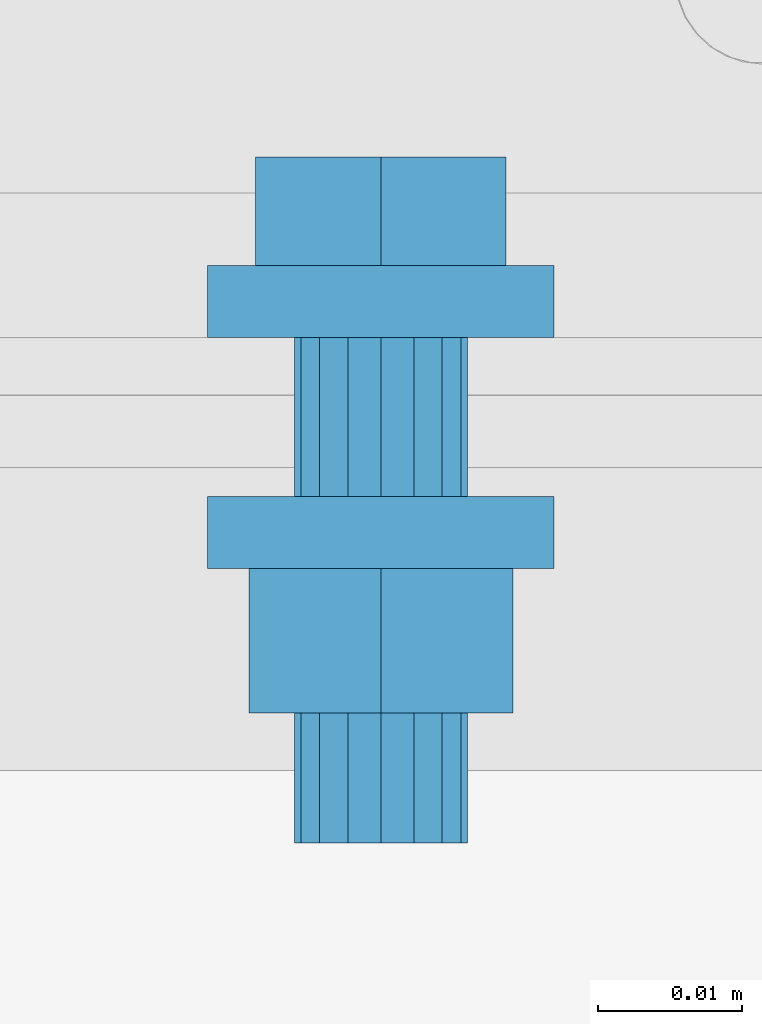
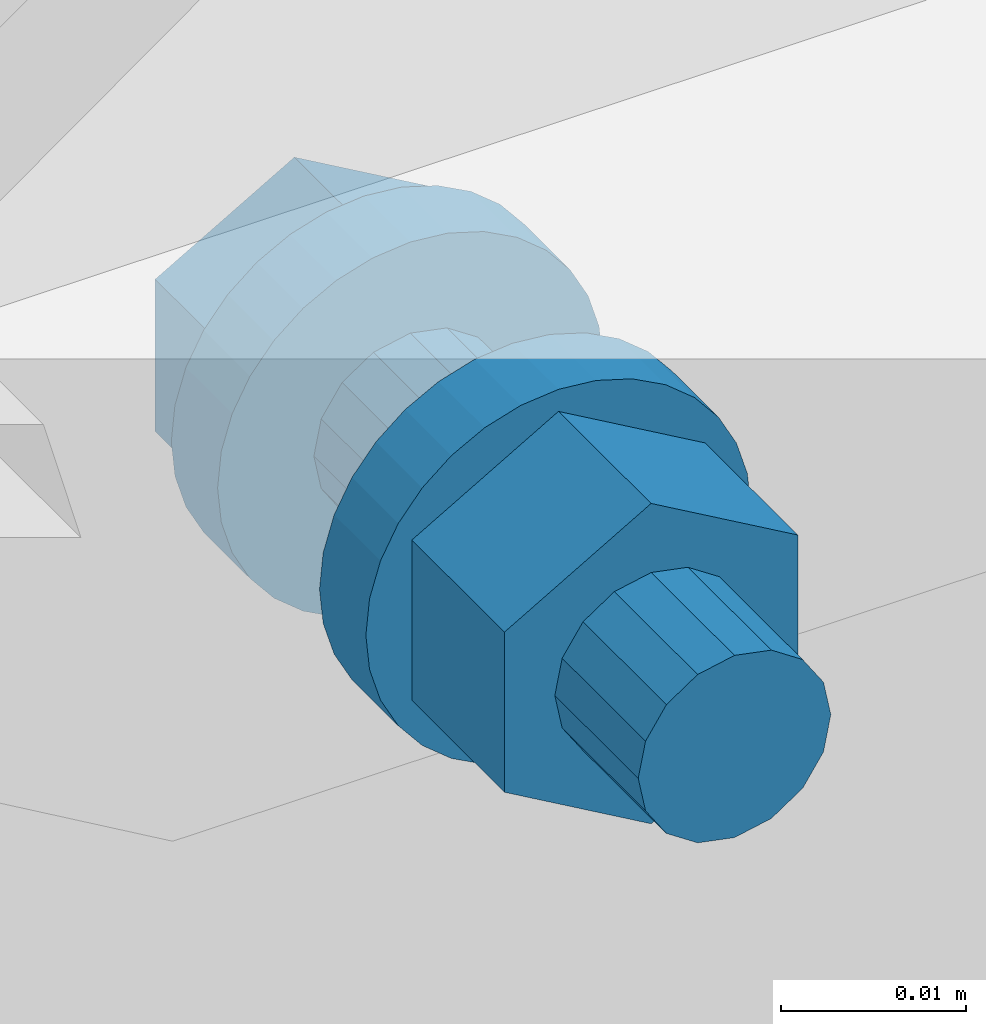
# One storey, part 47 of 116: 1 mechanical fastener.
"""IFC2X3 building model written with IfcOpenShell, lengths in millimetres."""

from ifc_helpers import new_model, entity, si_unit, converted_unit, origin_with_axes, place, context, project, spatial, faceted_brep, element, save


model = new_model("IFC2X3")

# Units and contexts
model_context = context("Model", 3, precision=1e-09, world=origin_with_axes())
ifc_project = project(units=[si_unit("LENGTHUNIT", "METRE", prefix="MILLI"), si_unit("AREAUNIT", "SQUARE_METRE"), si_unit("VOLUMEUNIT", "CUBIC_METRE"), converted_unit("PLANEANGLEUNIT", "DEGREE", entity("IfcPlaneAngleMeasure", 0.01745329), si_unit("PLANEANGLEUNIT", "RADIAN"), dimensions=[0, 0, 0, 0, 0, 0, 0])], contexts=[model_context])

# Site, building, storey
site_placement = place(None, origin_with_axes())
site = spatial("IfcSite", under=ifc_project, at=site_placement, Name="Site", CompositionType="ELEMENT")
building_placement = place(site_placement, origin_with_axes())
building = spatial("IfcBuilding", under=site, at=building_placement, Name="Struktur 1", CompositionType="ELEMENT")
storey_placement = place(building_placement, origin_with_axes())
storey = spatial("IfcBuildingStorey", under=building, at=storey_placement, Name="Default Storey", CompositionType="ELEMENT", Elevation=0.0)

# Mechanical fastener
mechanical_fastener_placement = place(None, origin_with_axes())
element("IfcMechanicalFastener", 1, at=mechanical_fastener_placement, inside=storey, ObjectType="-", NominalDiameter=12.0, NominalLength=40.0, context=model_context, shape_type="Brep", body=[
    faceted_brep([(58985.049134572, 10430.358883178, -533.0), (58985.049134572, 10432.858883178, -533.0), (58985.279711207, 10432.858883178, -535.341083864), (58985.279711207, 10430.358883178, -535.341083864), (58985.962580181, 10432.858883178, -537.592201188), (58985.962580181, 10430.358883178, -537.592201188), (58987.071499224, 10432.858883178, -539.666842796), (58987.071499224, 10430.358883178, -539.666842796), (58988.563853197, 10432.858883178, -541.485281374), (58988.563853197, 10430.358883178, -541.485281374), (58990.382291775, 10432.858883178, -542.977635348), (58990.382291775, 10430.358883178, -542.977635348), (58992.456933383, 10432.858883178, -544.08655439), (58992.456933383, 10430.358883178, -544.08655439), (58994.708050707, 10432.858883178, -544.769423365), (58994.708050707, 10430.358883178, -544.769423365), (58997.049134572, 10432.858883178, -545.0), (58997.049134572, 10430.358883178, -545.0), (58999.390218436, 10432.858883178, -544.769423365), (58999.390218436, 10430.358883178, -544.769423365), (59001.64133576, 10432.858883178, -544.08655439), (59001.64133576, 10430.358883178, -544.08655439), (59003.715977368, 10432.858883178, -542.977635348), (59003.715977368, 10430.358883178, -542.977635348), (59005.534415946, 10432.858883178, -541.485281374), (59005.534415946, 10430.358883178, -541.485281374), (59007.026769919, 10432.858883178, -539.666842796), (59007.026769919, 10430.358883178, -539.666842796), (59008.135688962, 10432.858883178, -537.592201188), (59008.135688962, 10430.358883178, -537.592201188), (59008.818557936, 10432.858883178, -535.341083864), (59008.818557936, 10430.358883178, -535.341083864), (59009.049134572, 10432.858883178, -533.0), (59009.049134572, 10430.358883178, -533.0), (59008.818557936, 10432.858883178, -530.658916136), (59008.818557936, 10430.358883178, -530.658916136), (59008.135688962, 10432.858883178, -528.407798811), (59008.135688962, 10430.358883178, -528.407798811), (59007.026769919, 10432.858883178, -526.333157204), (59007.026769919, 10430.358883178, -526.333157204), (59005.534415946, 10432.858883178, -524.514718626), (59005.534415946, 10430.358883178, -524.514718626), (59003.715977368, 10432.858883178, -523.022364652), (59003.715977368, 10430.358883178, -523.022364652), (59001.64133576, 10432.858883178, -521.91344561), (59001.64133576, 10430.358883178, -521.91344561), (58999.390218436, 10432.858883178, -521.230576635), (58999.390218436, 10430.358883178, -521.230576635), (58997.049134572, 10432.858883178, -521.0), (58997.049134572, 10430.358883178, -521.0), (58994.708050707, 10432.858883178, -521.230576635), (58994.708050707, 10430.358883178, -521.230576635), (58992.456933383, 10432.858883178, -521.91344561), (58992.456933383, 10430.358883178, -521.91344561), (58990.382291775, 10432.858883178, -523.022364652), (58990.382291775, 10430.358883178, -523.022364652), (58988.563853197, 10432.858883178, -524.514718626), (58988.563853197, 10430.358883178, -524.514718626), (58987.071499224, 10432.858883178, -526.333157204), (58987.071499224, 10430.358883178, -526.333157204), (58985.962580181, 10432.858883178, -528.407798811), (58985.962580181, 10430.358883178, -528.407798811), (58985.279711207, 10432.858883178, -530.658916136), (58985.279711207, 10430.358883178, -530.658916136)], [[[0, 1, 2, 3]], [[3, 2, 4, 5]], [[5, 4, 6, 7]], [[7, 6, 8, 9]], [[9, 8, 10, 11]], [[11, 10, 12, 13]], [[13, 12, 14, 15]], [[15, 14, 16, 17]], [[17, 16, 18, 19]], [[19, 18, 20, 21]], [[21, 20, 22, 23]], [[23, 22, 24, 25]], [[25, 24, 26, 27]], [[27, 26, 28, 29]], [[29, 28, 30, 31]], [[31, 30, 32, 33]], [[33, 32, 34, 35]], [[35, 34, 36, 37]], [[37, 36, 38, 39]], [[39, 38, 40, 41]], [[41, 40, 42, 43]], [[43, 42, 44, 45]], [[45, 44, 46, 47]], [[47, 46, 48, 49]], [[49, 48, 50, 51]], [[51, 50, 52, 53]], [[53, 52, 54, 55]], [[55, 54, 56, 57]], [[57, 56, 58, 59]], [[59, 58, 60, 61]], [[61, 60, 62, 63]], [[63, 62, 1, 0]], [[2, 1, 62, 60, 58, 56, 54, 52, 50, 48, 46, 44, 42, 40, 38, 36, 34, 32, 30, 28, 26, 24, 22, 20, 18, 16, 14, 12, 10, 8, 6, 4]], [[63, 0, 3, 5, 7, 9, 11, 13, 15, 17, 19, 21, 23, 25, 27, 29, 31, 33, 35, 37, 39, 41, 43, 45, 47, 49, 51, 53, 55, 57, 59, 61]]]),
    faceted_brep([(58985.049134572, 10432.858883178, -533.0), (58985.049134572, 10435.358883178, -533.0), (58985.279711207, 10435.358883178, -535.341083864), (58985.279711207, 10432.858883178, -535.341083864), (58985.962580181, 10435.358883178, -537.592201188), (58985.962580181, 10432.858883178, -537.592201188), (58987.071499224, 10435.358883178, -539.666842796), (58987.071499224, 10432.858883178, -539.666842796), (58988.563853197, 10435.358883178, -541.485281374), (58988.563853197, 10432.858883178, -541.485281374), (58990.382291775, 10435.358883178, -542.977635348), (58990.382291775, 10432.858883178, -542.977635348), (58992.456933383, 10435.358883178, -544.08655439), (58992.456933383, 10432.858883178, -544.08655439), (58994.708050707, 10435.358883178, -544.769423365), (58994.708050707, 10432.858883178, -544.769423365), (58997.049134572, 10435.358883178, -545.0), (58997.049134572, 10432.858883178, -545.0), (58999.390218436, 10435.358883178, -544.769423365), (58999.390218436, 10432.858883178, -544.769423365), (59001.64133576, 10435.358883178, -544.08655439), (59001.64133576, 10432.858883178, -544.08655439), (59003.715977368, 10435.358883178, -542.977635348), (59003.715977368, 10432.858883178, -542.977635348), (59005.534415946, 10435.358883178, -541.485281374), (59005.534415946, 10432.858883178, -541.485281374), (59007.026769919, 10435.358883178, -539.666842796), (59007.026769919, 10432.858883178, -539.666842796), (59008.135688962, 10435.358883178, -537.592201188), (59008.135688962, 10432.858883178, -537.592201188), (59008.818557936, 10435.358883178, -535.341083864), (59008.818557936, 10432.858883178, -535.341083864), (59009.049134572, 10435.358883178, -533.0), (59009.049134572, 10432.858883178, -533.0), (59008.818557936, 10435.358883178, -530.658916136), (59008.818557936, 10432.858883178, -530.658916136), (59008.135688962, 10435.358883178, -528.407798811), (59008.135688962, 10432.858883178, -528.407798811), (59007.026769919, 10435.358883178, -526.333157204), (59007.026769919, 10432.858883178, -526.333157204), (59005.534415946, 10435.358883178, -524.514718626), (59005.534415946, 10432.858883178, -524.514718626), (59003.715977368, 10435.358883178, -523.022364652), (59003.715977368, 10432.858883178, -523.022364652), (59001.64133576, 10435.358883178, -521.91344561), (59001.64133576, 10432.858883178, -521.91344561), (58999.390218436, 10435.358883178, -521.230576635), (58999.390218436, 10432.858883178, -521.230576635), (58997.049134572, 10435.358883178, -521.0), (58997.049134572, 10432.858883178, -521.0), (58994.708050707, 10435.358883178, -521.230576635), (58994.708050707, 10432.858883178, -521.230576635), (58992.456933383, 10435.358883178, -521.91344561), (58992.456933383, 10432.858883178, -521.91344561), (58990.382291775, 10435.358883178, -523.022364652), (58990.382291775, 10432.858883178, -523.022364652), (58988.563853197, 10435.358883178, -524.514718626), (58988.563853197, 10432.858883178, -524.514718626), (58987.071499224, 10435.358883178, -526.333157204), (58987.071499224, 10432.858883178, -526.333157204), (58985.962580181, 10435.358883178, -528.407798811), (58985.962580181, 10432.858883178, -528.407798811), (58985.279711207, 10435.358883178, -530.658916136), (58985.279711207, 10432.858883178, -530.658916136)], [[[0, 1, 2, 3]], [[3, 2, 4, 5]], [[5, 4, 6, 7]], [[7, 6, 8, 9]], [[9, 8, 10, 11]], [[11, 10, 12, 13]], [[13, 12, 14, 15]], [[15, 14, 16, 17]], [[17, 16, 18, 19]], [[19, 18, 20, 21]], [[21, 20, 22, 23]], [[23, 22, 24, 25]], [[25, 24, 26, 27]], [[27, 26, 28, 29]], [[29, 28, 30, 31]], [[31, 30, 32, 33]], [[33, 32, 34, 35]], [[35, 34, 36, 37]], [[37, 36, 38, 39]], [[39, 38, 40, 41]], [[41, 40, 42, 43]], [[43, 42, 44, 45]], [[45, 44, 46, 47]], [[47, 46, 48, 49]], [[49, 48, 50, 51]], [[51, 50, 52, 53]], [[53, 52, 54, 55]], [[55, 54, 56, 57]], [[57, 56, 58, 59]], [[59, 58, 60, 61]], [[61, 60, 62, 63]], [[63, 62, 1, 0]], [[2, 1, 62, 60, 58, 56, 54, 52, 50, 48, 46, 44, 42, 40, 38, 36, 34, 32, 30, 28, 26, 24, 22, 20, 18, 16, 14, 12, 10, 8, 6, 4]], [[63, 0, 3, 5, 7, 9, 11, 13, 15, 17, 19, 21, 23, 25, 27, 29, 31, 33, 35, 37, 39, 41, 43, 45, 47, 49, 51, 53, 55, 57, 59, 61]]]),
    faceted_brep([(59005.722378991, 10442.858883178, -538.0075), (59005.722378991, 10435.358883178, -538.0075), (58997.049134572, 10435.358883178, -543.015), (58997.049134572, 10442.858883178, -543.015), (58988.375890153, 10435.358883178, -538.0075), (58988.375890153, 10442.858883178, -538.0075), (58988.375890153, 10435.358883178, -527.9925), (58988.375890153, 10442.858883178, -527.9925), (58997.049134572, 10435.358883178, -522.985), (58997.049134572, 10442.858883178, -522.985), (59005.722378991, 10435.358883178, -527.9925), (59005.722378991, 10442.858883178, -527.9925)], [[[0, 1, 2, 3]], [[3, 2, 4, 5]], [[5, 4, 6, 7]], [[7, 6, 8, 9]], [[9, 8, 10, 11]], [[11, 10, 1, 0]], [[3, 5, 7, 9, 11, 0]], [[2, 1, 10, 8, 6, 4]]]),
    faceted_brep([(58991.049134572, 10419.358883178, -533.0), (58991.049134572, 10430.358883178, -533.0), (58991.505857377, 10430.358883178, -535.296100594), (58991.505857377, 10419.358883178, -535.296100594), (58992.806493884, 10430.358883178, -537.242640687), (58992.806493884, 10419.358883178, -537.242640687), (58994.753033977, 10430.358883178, -538.543277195), (58994.753033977, 10419.358883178, -538.543277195), (58997.049134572, 10430.358883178, -539.0), (58997.049134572, 10419.358883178, -539.0), (58999.345235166, 10430.358883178, -538.543277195), (58999.345235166, 10419.358883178, -538.543277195), (59001.291775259, 10430.358883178, -537.242640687), (59001.291775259, 10419.358883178, -537.242640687), (59002.592411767, 10430.358883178, -535.296100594), (59002.592411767, 10419.358883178, -535.296100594), (59003.049134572, 10430.358883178, -533.0), (59003.049134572, 10419.358883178, -533.0), (59002.592411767, 10430.358883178, -530.703899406), (59002.592411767, 10419.358883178, -530.703899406), (59001.291775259, 10430.358883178, -528.757359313), (59001.291775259, 10419.358883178, -528.757359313), (58999.345235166, 10430.358883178, -527.456722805), (58999.345235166, 10419.358883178, -527.456722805), (58997.049134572, 10430.358883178, -527.0), (58997.049134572, 10419.358883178, -527.0), (58994.753033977, 10430.358883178, -527.456722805), (58994.753033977, 10419.358883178, -527.456722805), (58992.806493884, 10430.358883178, -528.757359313), (58992.806493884, 10419.358883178, -528.757359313), (58991.505857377, 10430.358883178, -530.703899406), (58991.505857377, 10419.358883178, -530.703899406)], [[[0, 1, 2, 3]], [[3, 2, 4, 5]], [[5, 4, 6, 7]], [[7, 6, 8, 9]], [[9, 8, 10, 11]], [[11, 10, 12, 13]], [[13, 12, 14, 15]], [[15, 14, 16, 17]], [[17, 16, 18, 19]], [[19, 18, 20, 21]], [[21, 20, 22, 23]], [[23, 22, 24, 25]], [[25, 24, 26, 27]], [[27, 26, 28, 29]], [[29, 28, 30, 31]], [[31, 30, 1, 0]], [[2, 1, 30, 28, 26, 24, 22, 20, 18, 16, 14, 12, 10, 8, 6, 4]], [[31, 0, 3, 5, 7, 9, 11, 13, 15, 17, 19, 21, 23, 25, 27, 29]]]),
    faceted_brep([(58985.049134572, 10416.858883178, -533.0), (58985.049134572, 10419.358883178, -533.0), (58985.279711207, 10419.358883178, -535.341083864), (58985.279711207, 10416.858883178, -535.341083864), (58985.962580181, 10419.358883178, -537.592201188), (58985.962580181, 10416.858883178, -537.592201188), (58987.071499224, 10419.358883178, -539.666842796), (58987.071499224, 10416.858883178, -539.666842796), (58988.563853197, 10419.358883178, -541.485281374), (58988.563853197, 10416.858883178, -541.485281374), (58990.382291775, 10419.358883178, -542.977635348), (58990.382291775, 10416.858883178, -542.977635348), (58992.456933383, 10419.358883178, -544.08655439), (58992.456933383, 10416.858883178, -544.08655439), (58994.708050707, 10419.358883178, -544.769423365), (58994.708050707, 10416.858883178, -544.769423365), (58997.049134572, 10419.358883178, -545.0), (58997.049134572, 10416.858883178, -545.0), (58999.390218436, 10419.358883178, -544.769423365), (58999.390218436, 10416.858883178, -544.769423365), (59001.64133576, 10419.358883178, -544.08655439), (59001.64133576, 10416.858883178, -544.08655439), (59003.715977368, 10419.358883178, -542.977635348), (59003.715977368, 10416.858883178, -542.977635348), (59005.534415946, 10419.358883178, -541.485281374), (59005.534415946, 10416.858883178, -541.485281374), (59007.026769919, 10419.358883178, -539.666842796), (59007.026769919, 10416.858883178, -539.666842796), (59008.135688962, 10419.358883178, -537.592201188), (59008.135688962, 10416.858883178, -537.592201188), (59008.818557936, 10419.358883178, -535.341083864), (59008.818557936, 10416.858883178, -535.341083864), (59009.049134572, 10419.358883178, -533.0), (59009.049134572, 10416.858883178, -533.0), (59008.818557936, 10419.358883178, -530.658916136), (59008.818557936, 10416.858883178, -530.658916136), (59008.135688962, 10419.358883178, -528.407798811), (59008.135688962, 10416.858883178, -528.407798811), (59007.026769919, 10419.358883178, -526.333157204), (59007.026769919, 10416.858883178, -526.333157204), (59005.534415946, 10419.358883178, -524.514718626), (59005.534415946, 10416.858883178, -524.514718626), (59003.715977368, 10419.358883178, -523.022364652), (59003.715977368, 10416.858883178, -523.022364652), (59001.64133576, 10419.358883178, -521.91344561), (59001.64133576, 10416.858883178, -521.91344561), (58999.390218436, 10419.358883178, -521.230576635), (58999.390218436, 10416.858883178, -521.230576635), (58997.049134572, 10419.358883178, -521.0), (58997.049134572, 10416.858883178, -521.0), (58994.708050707, 10419.358883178, -521.230576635), (58994.708050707, 10416.858883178, -521.230576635), (58992.456933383, 10419.358883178, -521.91344561), (58992.456933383, 10416.858883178, -521.91344561), (58990.382291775, 10419.358883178, -523.022364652), (58990.382291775, 10416.858883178, -523.022364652), (58988.563853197, 10419.358883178, -524.514718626), (58988.563853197, 10416.858883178, -524.514718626), (58987.071499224, 10419.358883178, -526.333157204), (58987.071499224, 10416.858883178, -526.333157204), (58985.962580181, 10419.358883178, -528.407798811), (58985.962580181, 10416.858883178, -528.407798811), (58985.279711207, 10419.358883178, -530.658916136), (58985.279711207, 10416.858883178, -530.658916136)], [[[0, 1, 2, 3]], [[3, 2, 4, 5]], [[5, 4, 6, 7]], [[7, 6, 8, 9]], [[9, 8, 10, 11]], [[11, 10, 12, 13]], [[13, 12, 14, 15]], [[15, 14, 16, 17]], [[17, 16, 18, 19]], [[19, 18, 20, 21]], [[21, 20, 22, 23]], [[23, 22, 24, 25]], [[25, 24, 26, 27]], [[27, 26, 28, 29]], [[29, 28, 30, 31]], [[31, 30, 32, 33]], [[33, 32, 34, 35]], [[35, 34, 36, 37]], [[37, 36, 38, 39]], [[39, 38, 40, 41]], [[41, 40, 42, 43]], [[43, 42, 44, 45]], [[45, 44, 46, 47]], [[47, 46, 48, 49]], [[49, 48, 50, 51]], [[51, 50, 52, 53]], [[53, 52, 54, 55]], [[55, 54, 56, 57]], [[57, 56, 58, 59]], [[59, 58, 60, 61]], [[61, 60, 62, 63]], [[63, 62, 1, 0]], [[2, 1, 62, 60, 58, 56, 54, 52, 50, 48, 46, 44, 42, 40, 38, 36, 34, 32, 30, 28, 26, 24, 22, 20, 18, 16, 14, 12, 10, 8, 6, 4]], [[63, 0, 3, 5, 7, 9, 11, 13, 15, 17, 19, 21, 23, 25, 27, 29, 31, 33, 35, 37, 39, 41, 43, 45, 47, 49, 51, 53, 55, 57, 59, 61]]]),
    faceted_brep([(58985.049134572, 10414.358883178, -533.0), (58985.049134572, 10416.858883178, -533.0), (58985.279711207, 10416.858883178, -535.341083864), (58985.279711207, 10414.358883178, -535.341083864), (58985.962580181, 10416.858883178, -537.592201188), (58985.962580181, 10414.358883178, -537.592201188), (58987.071499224, 10416.858883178, -539.666842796), (58987.071499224, 10414.358883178, -539.666842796), (58988.563853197, 10416.858883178, -541.485281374), (58988.563853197, 10414.358883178, -541.485281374), (58990.382291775, 10416.858883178, -542.977635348), (58990.382291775, 10414.358883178, -542.977635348), (58992.456933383, 10416.858883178, -544.08655439), (58992.456933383, 10414.358883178, -544.08655439), (58994.708050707, 10416.858883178, -544.769423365), (58994.708050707, 10414.358883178, -544.769423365), (58997.049134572, 10416.858883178, -545.0), (58997.049134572, 10414.358883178, -545.0), (58999.390218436, 10416.858883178, -544.769423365), (58999.390218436, 10414.358883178, -544.769423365), (59001.64133576, 10416.858883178, -544.08655439), (59001.64133576, 10414.358883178, -544.08655439), (59003.715977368, 10416.858883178, -542.977635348), (59003.715977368, 10414.358883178, -542.977635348), (59005.534415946, 10416.858883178, -541.485281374), (59005.534415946, 10414.358883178, -541.485281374), (59007.026769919, 10416.858883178, -539.666842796), (59007.026769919, 10414.358883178, -539.666842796), (59008.135688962, 10416.858883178, -537.592201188), (59008.135688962, 10414.358883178, -537.592201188), (59008.818557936, 10416.858883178, -535.341083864), (59008.818557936, 10414.358883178, -535.341083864), (59009.049134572, 10416.858883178, -533.0), (59009.049134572, 10414.358883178, -533.0), (59008.818557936, 10416.858883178, -530.658916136), (59008.818557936, 10414.358883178, -530.658916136), (59008.135688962, 10416.858883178, -528.407798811), (59008.135688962, 10414.358883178, -528.407798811), (59007.026769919, 10416.858883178, -526.333157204), (59007.026769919, 10414.358883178, -526.333157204), (59005.534415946, 10416.858883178, -524.514718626), (59005.534415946, 10414.358883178, -524.514718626), (59003.715977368, 10416.858883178, -523.022364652), (59003.715977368, 10414.358883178, -523.022364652), (59001.64133576, 10416.858883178, -521.91344561), (59001.64133576, 10414.358883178, -521.91344561), (58999.390218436, 10416.858883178, -521.230576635), (58999.390218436, 10414.358883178, -521.230576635), (58997.049134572, 10416.858883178, -521.0), (58997.049134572, 10414.358883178, -521.0), (58994.708050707, 10416.858883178, -521.230576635), (58994.708050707, 10414.358883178, -521.230576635), (58992.456933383, 10416.858883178, -521.91344561), (58992.456933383, 10414.358883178, -521.91344561), (58990.382291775, 10416.858883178, -523.022364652), (58990.382291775, 10414.358883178, -523.022364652), (58988.563853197, 10416.858883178, -524.514718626), (58988.563853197, 10414.358883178, -524.514718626), (58987.071499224, 10416.858883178, -526.333157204), (58987.071499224, 10414.358883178, -526.333157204), (58985.962580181, 10416.858883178, -528.407798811), (58985.962580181, 10414.358883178, -528.407798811), (58985.279711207, 10416.858883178, -530.658916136), (58985.279711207, 10414.358883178, -530.658916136)], [[[0, 1, 2, 3]], [[3, 2, 4, 5]], [[5, 4, 6, 7]], [[7, 6, 8, 9]], [[9, 8, 10, 11]], [[11, 10, 12, 13]], [[13, 12, 14, 15]], [[15, 14, 16, 17]], [[17, 16, 18, 19]], [[19, 18, 20, 21]], [[21, 20, 22, 23]], [[23, 22, 24, 25]], [[25, 24, 26, 27]], [[27, 26, 28, 29]], [[29, 28, 30, 31]], [[31, 30, 32, 33]], [[33, 32, 34, 35]], [[35, 34, 36, 37]], [[37, 36, 38, 39]], [[39, 38, 40, 41]], [[41, 40, 42, 43]], [[43, 42, 44, 45]], [[45, 44, 46, 47]], [[47, 46, 48, 49]], [[49, 48, 50, 51]], [[51, 50, 52, 53]], [[53, 52, 54, 55]], [[55, 54, 56, 57]], [[57, 56, 58, 59]], [[59, 58, 60, 61]], [[61, 60, 62, 63]], [[63, 62, 1, 0]], [[2, 1, 62, 60, 58, 56, 54, 52, 50, 48, 46, 44, 42, 40, 38, 36, 34, 32, 30, 28, 26, 24, 22, 20, 18, 16, 14, 12, 10, 8, 6, 4]], [[63, 0, 3, 5, 7, 9, 11, 13, 15, 17, 19, 21, 23, 25, 27, 29, 31, 33, 35, 37, 39, 41, 43, 45, 47, 49, 51, 53, 55, 57, 59, 61]]]),
    faceted_brep([(59006.185702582, 10414.358883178, -538.275), (59006.185702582, 10404.358883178, -538.275), (58997.049134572, 10404.358883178, -543.55), (58997.049134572, 10414.358883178, -543.55), (58987.912566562, 10404.358883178, -538.275), (58987.912566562, 10414.358883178, -538.275), (58987.912566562, 10404.358883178, -527.725), (58987.912566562, 10414.358883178, -527.725), (58997.049134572, 10404.358883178, -522.45), (58997.049134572, 10414.358883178, -522.45), (59006.185702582, 10404.358883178, -527.725), (59006.185702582, 10414.358883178, -527.725)], [[[0, 1, 2, 3]], [[3, 2, 4, 5]], [[5, 4, 6, 7]], [[7, 6, 8, 9]], [[9, 8, 10, 11]], [[11, 10, 1, 0]], [[3, 5, 7, 9, 11, 0]], [[2, 1, 10, 8, 6, 4]]]),
    faceted_brep([(58991.049134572, 10395.358883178, -533.0), (58991.049134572, 10404.358883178, -533.0), (58991.505857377, 10404.358883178, -535.296100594), (58991.505857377, 10395.358883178, -535.296100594), (58992.806493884, 10404.358883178, -537.242640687), (58992.806493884, 10395.358883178, -537.242640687), (58994.753033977, 10404.358883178, -538.543277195), (58994.753033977, 10395.358883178, -538.543277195), (58997.049134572, 10404.358883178, -539.0), (58997.049134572, 10395.358883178, -539.0), (58999.345235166, 10404.358883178, -538.543277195), (58999.345235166, 10395.358883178, -538.543277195), (59001.291775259, 10404.358883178, -537.242640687), (59001.291775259, 10395.358883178, -537.242640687), (59002.592411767, 10404.358883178, -535.296100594), (59002.592411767, 10395.358883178, -535.296100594), (59003.049134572, 10404.358883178, -533.0), (59003.049134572, 10395.358883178, -533.0), (59002.592411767, 10404.358883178, -530.703899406), (59002.592411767, 10395.358883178, -530.703899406), (59001.291775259, 10404.358883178, -528.757359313), (59001.291775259, 10395.358883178, -528.757359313), (58999.345235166, 10404.358883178, -527.456722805), (58999.345235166, 10395.358883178, -527.456722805), (58997.049134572, 10404.358883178, -527.0), (58997.049134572, 10395.358883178, -527.0), (58994.753033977, 10404.358883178, -527.456722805), (58994.753033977, 10395.358883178, -527.456722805), (58992.806493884, 10404.358883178, -528.757359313), (58992.806493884, 10395.358883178, -528.757359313), (58991.505857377, 10404.358883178, -530.703899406), (58991.505857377, 10395.358883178, -530.703899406)], [[[0, 1, 2, 3]], [[3, 2, 4, 5]], [[5, 4, 6, 7]], [[7, 6, 8, 9]], [[9, 8, 10, 11]], [[11, 10, 12, 13]], [[13, 12, 14, 15]], [[15, 14, 16, 17]], [[17, 16, 18, 19]], [[19, 18, 20, 21]], [[21, 20, 22, 23]], [[23, 22, 24, 25]], [[25, 24, 26, 27]], [[27, 26, 28, 29]], [[29, 28, 30, 31]], [[31, 30, 1, 0]], [[2, 1, 30, 28, 26, 24, 22, 20, 18, 16, 14, 12, 10, 8, 6, 4]], [[31, 0, 3, 5, 7, 9, 11, 13, 15, 17, 19, 21, 23, 25, 27, 29]]]),
])

save(model, "model.ifc")
